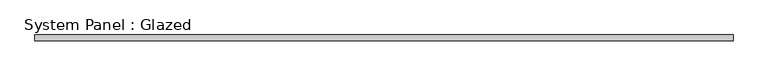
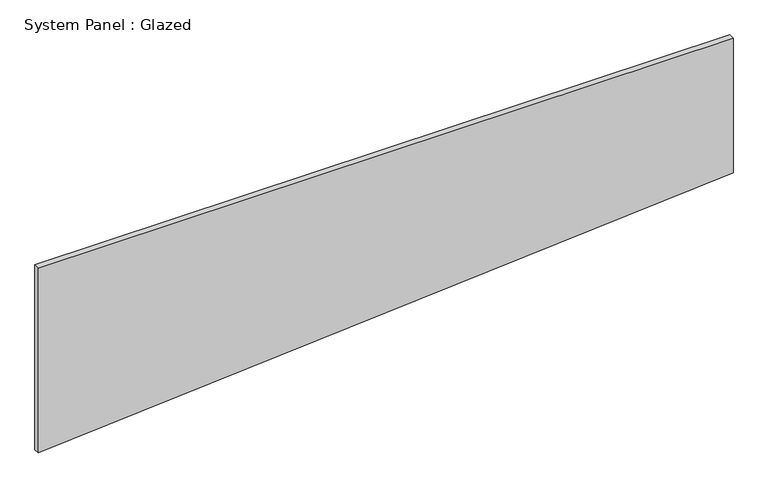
"""IFC4 building model written with IfcOpenShell, lengths in millimetres: plate geometry, System Panel : Glazed."""

from ifc_helpers import new_model, si_unit, frame, origin, place, context, project, spatial, polyline, outline, extrude, source, transform, mapped, element, save


def system_panel_glazed_6cc4185f(model_context):
    return source(origin(), model_context, "Body", "SweptSolid", [
        extrude(outline(polyline([(0.0, -1504.95), (229.8315723, 1504.95), (845.1882329, 1504.95), (845.1882329, -1504.95), (0.0, -1504.95)])), frame((0.0, 19.05, 0.0), z_axis=(0.0, 1.0, 0.0), x_axis=(0.0, 0.0, 1.0)), (0.0, 0.0, 1.0), 25.4),
    ])


if __name__ == "__main__":
    model = new_model("IFC4")
    model_context = context("Model", 3, world=origin())
    ifc_project = project(units=[si_unit("LENGTHUNIT", "METRE", prefix="MILLI")], contexts=[model_context])
    site = spatial("IfcSite", under=ifc_project)
    building = spatial("IfcBuilding", under=site)
    placement = place(None, origin())
    system_panel_glazed_shape = system_panel_glazed_6cc4185f(model_context)
    element("IfcPlate", 1, ObjectType="System Panel : Glazed", at=placement, inside=building, context=model_context, shape_type="MappedRepresentation", body=[
        mapped(system_panel_glazed_shape, transform((0.0, 0.0, 0.0), x_axis=(1.0, 0.0, 0.0), y_axis=(0.0, 1.0, 0.0), z_axis=(0.0, 0.0, 1.0))),
    ])
    save(model, "model.ifc")
